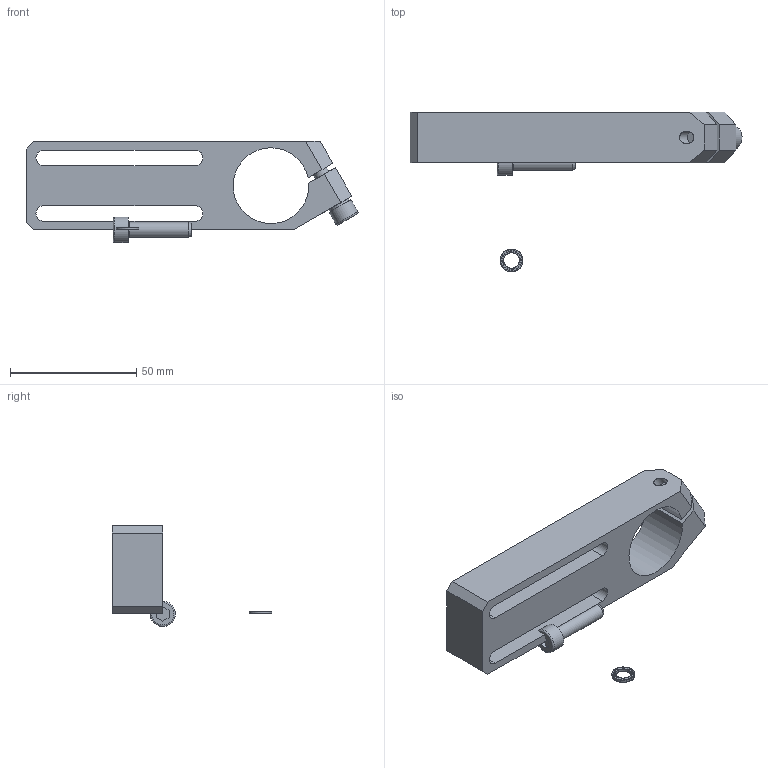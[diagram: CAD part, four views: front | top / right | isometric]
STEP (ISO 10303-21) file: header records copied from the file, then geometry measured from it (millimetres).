
FILE_DESCRIPTION( ( 'STEP AP214' ), '1' );
FILE_NAME( 'C:/Users/Segreteria/Desktop/CA.WSL.3060.VU.stp', '2014-07-16T10:41:09', ( ' ' ), ( ' ' ), 'XStep 1.0', ' ', ' ' );
FILE_SCHEMA( ( 'CONFIG_CONTROL_DESIGN) ( )' ) );
Length unit declared in the file: metre
Products named in the file (4): Assem1; R.6.SCH; V-tcei M  6 x 25; WSL.3060.VU
Bounding box: 131.46 x 63.14 x 40 mm (x, y, z)
Volume: 107605.8 mm3; surface area: 40842.5 mm2
Topology: 4 solids, 6 shells, 472 faces, 1374 edges, 912 vertices
Faces by surface type: plane 444, cylinder 22, torus 4, cone 2
Full cylindrical faces by diameter (mm): 4.917 x2, 6 x2, 6.2 x4, 9 x2, 10 x2
Entity records: 9400 total; most frequent: CARTESIAN_POINT 1367, DIRECTION 1367, ORIENTED_EDGE 1348, EDGE_CURVE 674, LINE 461, VECTOR 461, AXIS2_PLACEMENT_3D 453, VERTEX_POINT 453
